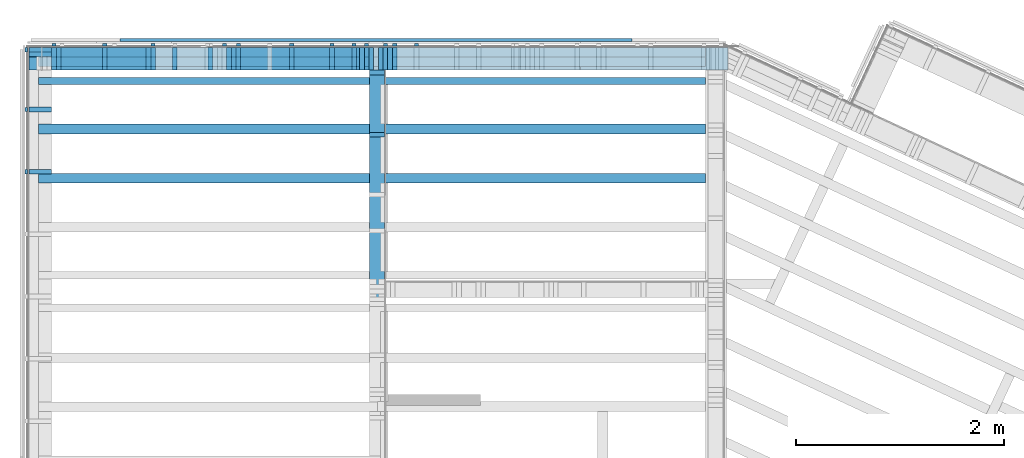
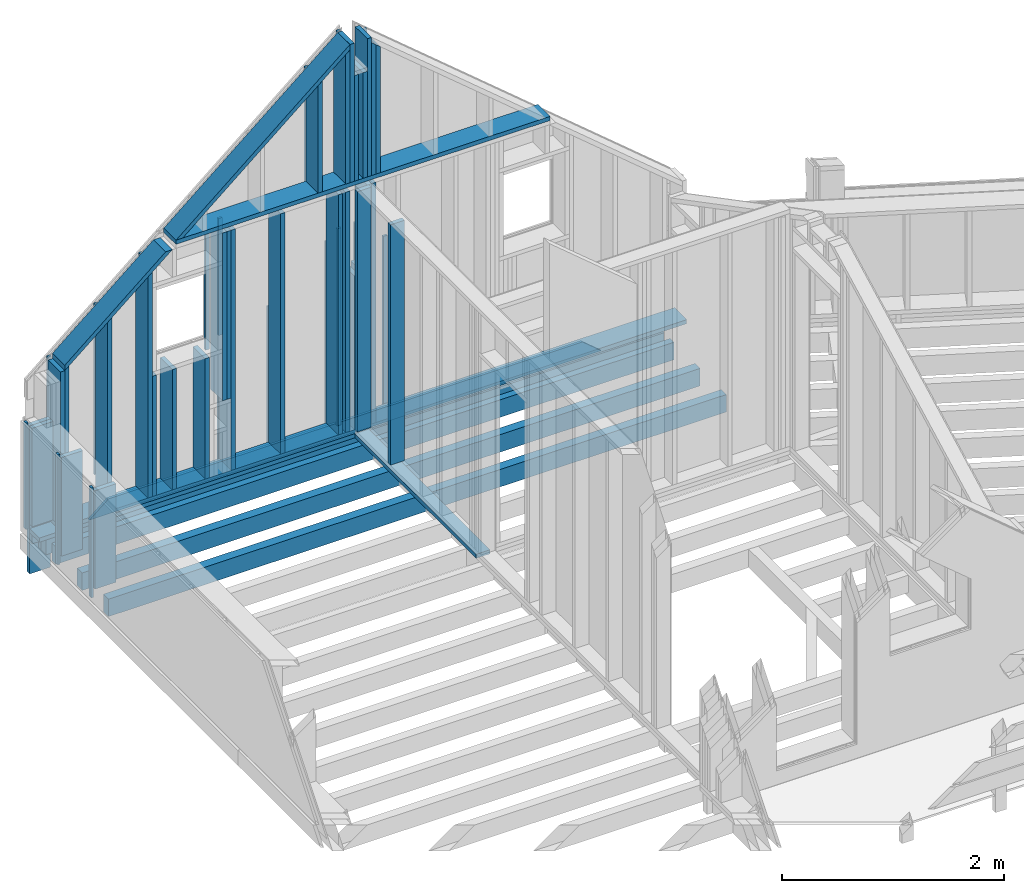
# One storey, part 11 of 24: 60 members.
"""IFC2X3 building model written with IfcOpenShell, lengths in metres."""

from ifc_helpers import new_model, si_unit, direction, frame, origin_with_axes, place, context, subcontext, project, spatial, faceted_brep, material, element, save


model = new_model("IFC2X3")

# Units and contexts
model_context = context("Model", 3, precision=1e-06, world=origin_with_axes(), true_north=direction((0.0, 1.0, 0.0)))
body_context = subcontext(model_context, "Body", "Model", "MODEL_VIEW")
ifc_project = project(units=[si_unit("LENGTHUNIT", "METRE"), si_unit("AREAUNIT", "SQUARE_METRE"), si_unit("VOLUMEUNIT", "CUBIC_METRE"), si_unit("PLANEANGLEUNIT", "RADIAN")], contexts=[model_context])

# Site, building, storey
site_placement = place(None, origin_with_axes())
site = spatial("IfcSite", under=ifc_project, at=site_placement, CompositionType="ELEMENT")
building_placement = place(site_placement, origin_with_axes())
building = spatial("IfcBuilding", under=site, at=building_placement, Name="Building 1", CompositionType="ELEMENT")
storey_placement = place(building_placement, origin_with_axes())
storey = spatial("IfcBuildingStorey", under=building, at=storey_placement, Name="Premier Etage", CompositionType="ELEMENT", Elevation=0.0)

# Members
ifc_material_1 = material(Name="Epicéa C24")
member_1_placement = place(storey_placement, frame((3.3635, 5.4902176, 2.8275), z_axis=(-1.0, 0.0, 0.0), x_axis=(0.0, 1.0, 0.0)))
element("IfcMember", 1, at=member_1_placement, inside=storey, material=ifc_material_1, Name="Lisse basse", context=body_context, shape_type="Brep", body=[
    faceted_brep([(0.0, 0.0225, -0.0725), (0.0, 0.0225, 0.0725), (2.1857824, 0.0225, 0.0725), (2.1857824, 0.0225, -0.0725), (0.0, -0.0225, 0.0725), (2.1857824, -0.0225, 0.0725), (0.0, -0.0225, -0.0725), (2.1857824, -0.0225, -0.0725)], [[[0, 1, 2, 3]], [[1, 4, 5, 2]], [[4, 6, 7, 5]], [[2, 5, 7, 3]], [[6, 0, 3, 7]], [[0, 6, 4, 1]]]),
])
member_2_placement = place(storey_placement, frame((1.984, 7.786, 5.5354713), z_axis=(0.0, 1.0, 0.0), x_axis=(0.0, 0.0, -1.0)))
element("IfcMember", 2, at=member_2_placement, inside=storey, material=ifc_material_1, Name="Montant", context=body_context, shape_type="Brep", body=[
    faceted_brep([(1.8448103, 0.0225, 0.11), (1.8448103, -0.0225, 0.11), (1.8448103, -0.0225, -0.11), (1.8448103, 0.0225, -0.11), (0.0, -0.0225, 0.11), (0.0, -0.0225, -0.11), (0.0, 0.0225, 0.11), (0.0, 0.0225, -0.11)], [[[0, 1, 2, 3]], [[2, 1, 4, 5]], [[1, 0, 6, 4]], [[3, 2, 5, 7]], [[0, 3, 7, 6]], [[4, 6, 7, 5]]]),
])
member_3_placement = place(storey_placement, frame((3.444, 7.921, 4.9754981), z_axis=(0.0, 1.0, 0.0), x_axis=(0.0, 0.0, -1.0)))
element("IfcMember", 3, at=member_3_placement, inside=storey, material=ifc_material_1, Name="latte 27/40", context=body_context, shape_type="Brep", body=[
    faceted_brep([(0.0, 0.02, -0.012), (0.0, -0.02, -0.012), (0.0, -0.02, 0.012), (0.0, 0.02, 0.012), (2.1654981, -0.02, -0.012), (2.1654981, -0.02, 0.012), (2.1654981, 0.02, -0.012), (2.1654981, 0.02, 0.012)], [[[0, 1, 2, 3]], [[2, 1, 4, 5]], [[1, 0, 6, 4]], [[6, 7, 5, 4]], [[3, 2, 5, 7]], [[0, 3, 7, 6]]]),
])
member_4_placement = place(storey_placement, frame((2.029, 7.786, 5.5354713), z_axis=(0.0, 1.0, 0.0), x_axis=(0.0, 0.0, -1.0)))
element("IfcMember", 4, at=member_4_placement, inside=storey, material=ifc_material_1, Name="Montant", context=body_context, shape_type="Brep", body=[
    faceted_brep([(2.6404713, -0.0225, 0.11), (2.6404713, 0.0225, 0.11), (0.0, 0.0225, 0.11), (0.0, -0.0225, 0.11), (2.6404713, -0.0225, -0.11), (2.6404713, 0.0225, -0.11), (0.0, -0.0225, -0.11), (0.0, 0.0225, -0.11)], [[[0, 1, 2, 3]], [[4, 5, 1, 0]], [[4, 0, 3, 6]], [[5, 4, 6, 7]], [[1, 5, 7, 2]], [[3, 2, 7, 6]]]),
])
member_5_placement = place(storey_placement, frame((0.122, 7.298, 3.9778151), z_axis=(-1.0, 0.0, 0.0), x_axis=(0.0, 0.0, -1.0)))
element("IfcMember", 5, at=member_5_placement, inside=storey, material=ifc_material_1, Name="Montant", context=body_context, shape_type="Brep", body=[
    faceted_brep([(1.0828151, -0.0225, -0.11), (1.0828151, 0.0225, -0.11), (1.0828151, 0.0225, 0.11), (1.0828151, -0.0225, 0.11), (0.0, -0.0225, 0.11), (0.0, -0.0225, -0.11), (0.0, 0.0225, -0.11), (0.0, 0.0225, 0.11)], [[[0, 1, 2, 3]], [[0, 3, 4, 5]], [[1, 0, 5, 6]], [[2, 1, 6, 7]], [[3, 2, 7, 4]], [[4, 7, 6, 5]]]),
])
member_6_placement = place(storey_placement, frame((5.3206163, 7.786, 5.6029713), z_axis=(0.0, -1.0, 0.0), x_axis=(-1.0, 0.0, 0.0)))
element("IfcMember", 6, at=member_6_placement, inside=storey, material=ifc_material_1, Name="Montant", context=body_context, shape_type="Brep", body=[
    faceted_brep([(0.0, 0.0225, 0.11), (0.0, 0.0225, -0.11), (0.0, -0.0225, -0.11), (0.0, -0.0225, 0.11), (3.8883953, 0.0225, -0.11), (3.8883953, -0.0225, -0.11), (3.8883953, 0.0225, 0.11), (3.8883953, -0.0225, 0.11)], [[[0, 1, 2, 3]], [[2, 1, 4, 5]], [[1, 0, 6, 4]], [[5, 4, 6, 7]], [[3, 2, 5, 7]], [[0, 3, 7, 6]]]),
])
member_7_placement = place(storey_placement, frame((3.264, 7.786, 7.1436366), z_axis=(0.0, 1.0, 0.0), x_axis=(0.0, 0.0, -1.0)))
element("IfcMember", 7, at=member_7_placement, inside=storey, material=ifc_material_1, Name="Montant", context=body_context, shape_type="Brep", body=[
    faceted_brep([(0.0, 0.0225, -0.11), (0.0, -0.0225, -0.11), (0.0, -0.0225, 0.11), (0.0, 0.0225, 0.11), (1.5181653, -0.0225, -0.11), (1.5181653, -0.0225, 0.11), (1.5181653, 0.0225, -0.11), (1.5181653, 0.0225, 0.11)], [[[0, 1, 2, 3]], [[2, 1, 4, 5]], [[1, 0, 6, 4]], [[0, 3, 7, 6]], [[3, 2, 5, 7]], [[4, 6, 7, 5]]]),
])
member_8_placement = place(storey_placement, frame((0.122, 7.8735, 3.9778151), z_axis=(-1.0, 0.0, 0.0), x_axis=(0.0, 0.0, -1.0)))
element("IfcMember", 8, at=member_8_placement, inside=storey, material=ifc_material_1, Name="Montant", context=body_context, shape_type="Brep", body=[
    faceted_brep([(1.6278151, 0.0225, 0.11), (0.0, 0.0225, 0.11), (0.0, -0.0225, 0.11), (1.6278151, -0.0225, 0.11), (0.0, 0.0225, -0.11), (0.0, -0.0225, -0.11), (1.6278151, 0.0225, -0.11), (1.6278151, -0.0225, -0.11)], [[[0, 1, 2, 3]], [[1, 4, 5, 2]], [[6, 4, 1, 0]], [[7, 5, 4, 6]], [[3, 2, 5, 7]], [[6, 0, 3, 7]]]),
])
member_9_placement = place(storey_placement, frame((0.2545, 7.921, 4.6204641), z_axis=(0.0, 1.0, 0.0), x_axis=(0.0, 0.0, -1.0)))
element("IfcMember", 9, at=member_9_placement, inside=storey, material=ifc_material_1, Name="latte 27/40", context=body_context, shape_type="Brep", body=[
    faceted_brep([(1.8104641, 0.02, -0.012), (1.8104641, 0.02, 0.012), (1.8104641, -0.02, 0.012), (1.8104641, -0.02, -0.012), (0.0, 0.02, 0.012), (0.0, 0.02, -0.012), (0.0, -0.02, -0.012), (0.0, -0.02, 0.012)], [[[0, 1, 2, 3]], [[4, 5, 6, 7]], [[3, 6, 5, 0]], [[2, 7, 6, 3]], [[1, 4, 7, 2]], [[0, 5, 4, 1]]]),
])
member_10_placement = place(storey_placement, frame((3.2188373, 7.786, 7.0847568), z_axis=(0.0, 1.0, 0.0), x_axis=(0.0, 0.0, -1.0)))
element("IfcMember", 10, at=member_10_placement, inside=storey, material=ifc_material_1, Name="Montant", context=body_context, shape_type="Brep", body=[
    faceted_brep([(0.0377595, 0.0225, -0.11), (0.0377595, 0.0225, 0.11), (1.4592855, 0.0225, 0.11), (1.4592855, 0.0225, -0.11), (0.0, -0.0225, 0.11), (1.4592855, -0.0225, 0.11), (0.0, -0.0225, -0.11), (1.4592855, -0.0225, -0.11)], [[[0, 1, 2, 3]], [[1, 4, 5, 2]], [[4, 6, 7, 5]], [[6, 0, 3, 7]], [[1, 0, 6, 4]], [[7, 3, 2, 5]]]),
])
ifc_material_2 = material(Name="NH II")
member_11_placement = place(storey_placement, frame((0.104, 7.1100544, 2.709), z_axis=(0.0, 0.0, -1.0), x_axis=(1.0, 0.0, 0.0)))
element("IfcMember", 11, at=member_11_placement, inside=storey, material=ifc_material_2, Name="Solive", context=body_context, shape_type="Brep", body=[
    faceted_brep([(6.424, -0.046, 0.096), (6.424, -0.046, -0.096), (6.424, 0.046, -0.096), (6.424, 0.046, 0.096), (0.0, -0.046, -0.096), (0.0, -0.046, 0.096), (0.0, 0.046, 0.096), (0.0, 0.046, -0.096)], [[[0, 1, 2, 3]], [[4, 5, 6, 7]], [[3, 6, 5, 0]], [[2, 7, 6, 3]], [[1, 4, 7, 2]], [[0, 5, 4, 1]]]),
])
member_12_placement = place(storey_placement, frame((1.759, 7.786, 4.218), z_axis=(0.0, 1.0, 0.0), x_axis=(0.0, 0.0, -1.0)))
element("IfcMember", 12, at=member_12_placement, inside=storey, material=ifc_material_1, Name="Montant", context=body_context, shape_type="Brep", body=[
    faceted_brep([(1.323, -0.0225, -0.11), (1.323, 0.0225, -0.11), (1.323, 0.0225, 0.11), (1.323, -0.0225, 0.11), (0.0, 0.0225, -0.11), (0.0, 0.0225, 0.11), (0.0, -0.0225, -0.11), (0.0, -0.0225, 0.11)], [[[0, 1, 2, 3]], [[2, 1, 4, 5]], [[1, 0, 6, 4]], [[0, 3, 7, 6]], [[3, 2, 5, 7]], [[7, 5, 4, 6]]]),
])
member_13_placement = place(storey_placement, frame((-0.013, 7.8735, 4.0178151), z_axis=(-1.0, 0.0, 0.0), x_axis=(0.0, 0.0, -1.0)))
element("IfcMember", 13, at=member_13_placement, inside=storey, material=ifc_material_1, Name="latte 27/40", context=body_context, shape_type="Brep", body=[
    faceted_brep([(1.1678151, -0.02, -0.012), (1.1678151, -0.02, 0.012), (0.0, -0.02, 0.012), (0.0, -0.02, -0.012), (1.1678151, 0.02, -0.012), (0.0, 0.02, -0.012), (1.1678151, 0.02, 0.012), (0.0, 0.02, 0.012)], [[[0, 1, 2, 3]], [[4, 0, 3, 5]], [[6, 4, 5, 7]], [[2, 7, 5, 3]], [[1, 6, 7, 2]], [[4, 6, 1, 0]]]),
])
member_14_placement = place(storey_placement, frame((1.894, 7.921, 5.5204713), z_axis=(0.0, 1.0, 0.0), x_axis=(0.0, 0.0, -1.0)))
element("IfcMember", 14, at=member_14_placement, inside=storey, material=ifc_material_1, Name="latte 27/40", context=body_context, shape_type="Brep", body=[
    faceted_brep([(1.3998943, -0.02, -0.012), (1.3998943, 0.02, -0.012), (1.3998943, 0.02, 0.012), (1.3998943, -0.02, 0.012), (0.0, 0.02, -0.012), (0.0, 0.02, 0.012), (0.0, -0.02, -0.012), (0.0, -0.02, 0.012)], [[[0, 1, 2, 3]], [[2, 1, 4, 5]], [[1, 0, 6, 4]], [[5, 4, 6, 7]], [[0, 3, 7, 6]], [[3, 2, 5, 7]]]),
])
member_15_placement = place(storey_placement, frame((2.029, 7.921, 5.5204713), z_axis=(0.0, 1.0, 0.0), x_axis=(0.0, 0.0, -1.0)))
element("IfcMember", 15, at=member_15_placement, inside=storey, material=ifc_material_1, Name="latte 27/40", context=body_context, shape_type="Brep", body=[
    faceted_brep([(1.2866159, -0.02, -0.012), (1.2866159, 0.02, -0.012), (1.2866159, 0.02, 0.012), (1.2866159, -0.02, 0.012), (0.0, 0.02, -0.012), (0.0, 0.02, 0.012), (0.0, -0.02, -0.012), (0.0, -0.02, 0.012)], [[[0, 1, 2, 3]], [[2, 1, 4, 5]], [[1, 0, 6, 4]], [[5, 4, 6, 7]], [[0, 3, 7, 6]], [[3, 2, 5, 7]]]),
])
member_16_placement = place(storey_placement, frame((0.6940204, 7.9675, 2.7225), z_axis=(0.0, 0.0, -1.0), x_axis=(1.0, 0.0, 0.0)))
element("IfcMember", 16, at=member_16_placement, inside=storey, material=ifc_material_2, Name="contre poutre", context=body_context, shape_type="Brep", body=[
    faceted_brep([(0.0, 0.0135, 0.0825), (0.1966393, 0.0135, -0.0825), (0.1966393, -0.0135, -0.0825), (0.0, -0.0135, 0.0825), (5.1233199, 0.0135, -0.0825), (5.1233199, -0.0135, -0.0825), (5.3199592, 0.0135, 0.0825), (5.3199592, -0.0135, 0.0825)], [[[0, 1, 2, 3]], [[2, 1, 4, 5]], [[1, 0, 6, 4]], [[5, 4, 6, 7]], [[3, 2, 5, 7]], [[0, 3, 7, 6]]]),
])
member_17_placement = place(storey_placement, frame((6.7411423, 7.786, 2.8725), z_axis=(0.0, -1.0, 0.0), x_axis=(-1.0, 0.0, 0.0)))
element("IfcMember", 17, at=member_17_placement, inside=storey, material=ifc_material_1, Name="Montant", context=body_context, shape_type="Brep", body=[
    faceted_brep([(0.0, 0.0225, -0.11), (0.0, -0.0225, -0.11), (0.0, -0.0225, 0.11), (0.0, 0.0225, 0.11), (6.5091423, -0.0225, -0.11), (6.5091423, -0.0225, 0.11), (6.5091423, 0.0225, -0.11), (6.5091423, 0.0225, 0.11)], [[[0, 1, 2, 3]], [[2, 1, 4, 5]], [[1, 0, 6, 4]], [[5, 4, 6, 7]], [[0, 3, 7, 6]], [[3, 2, 5, 7]]]),
])
member_18_placement = place(storey_placement, frame((0.122, 7.8285, 3.9778151), z_axis=(-1.0, 0.0, 0.0), x_axis=(0.0, 0.0, -1.0)))
element("IfcMember", 18, at=member_18_placement, inside=storey, material=ifc_material_1, Name="Montant", context=body_context, shape_type="Brep", body=[
    faceted_brep([(1.0828151, -0.0225, -0.11), (1.0828151, 0.0225, -0.11), (1.0828151, 0.0225, 0.11), (1.0828151, -0.0225, 0.11), (0.0, -0.0225, 0.11), (0.0, -0.0225, -0.11), (0.0, 0.0225, -0.11), (0.0, 0.0225, 0.11)], [[[0, 1, 2, 3]], [[0, 3, 4, 5]], [[1, 0, 5, 6]], [[2, 1, 6, 7]], [[3, 2, 7, 4]], [[4, 7, 6, 5]]]),
])
member_19_placement = place(storey_placement, frame((3.1431423, 7.921, 4.8740864), z_axis=(0.0, 1.0, 0.0), x_axis=(0.0, 0.0, -1.0)))
element("IfcMember", 19, at=member_19_placement, inside=storey, material=ifc_material_1, Name="latte 27/40", context=body_context, shape_type="Brep", body=[
    faceted_brep([(0.0, 0.02, -0.012), (0.0, -0.02, -0.012), (0.0, -0.02, 0.012), (0.0, 0.02, 0.012), (2.0640864, -0.02, -0.012), (2.0640864, -0.02, 0.012), (2.0640864, 0.02, -0.012), (2.0640864, 0.02, 0.012)], [[[0, 1, 2, 3]], [[2, 1, 4, 5]], [[1, 0, 6, 4]], [[6, 7, 5, 4]], [[3, 2, 5, 7]], [[0, 3, 7, 6]]]),
])
member_20_placement = place(storey_placement, frame((3.3635, 7.6535, 5.5354713), z_axis=(1.0, 0.0, 0.0), x_axis=(0.0, 0.0, -1.0)))
element("IfcMember", 20, at=member_20_placement, inside=storey, material=ifc_material_1, Name="Montant", context=body_context, shape_type="Brep", body=[
    faceted_brep([(2.6404713, -0.0225, -0.0725), (2.6404713, 0.0225, -0.0725), (2.6404713, 0.0225, 0.0725), (2.6404713, -0.0225, 0.0725), (0.0, -0.0225, 0.0725), (0.0, -0.0225, -0.0725), (0.0, 0.0225, -0.0725), (0.0, 0.0225, 0.0725)], [[[0, 1, 2, 3]], [[0, 3, 4, 5]], [[1, 0, 5, 6]], [[2, 1, 6, 7]], [[3, 2, 7, 4]], [[4, 7, 6, 5]]]),
])
member_21_placement = place(storey_placement, frame((-0.013, 7.298, 4.0178151), z_axis=(-1.0, 0.0, 0.0), x_axis=(0.0, 0.0, -1.0)))
element("IfcMember", 21, at=member_21_placement, inside=storey, material=ifc_material_1, Name="latte 27/40", context=body_context, shape_type="Brep", body=[
    faceted_brep([(1.2078151, -0.02, 0.012), (0.0, -0.02, 0.012), (0.0, -0.02, -0.012), (1.2078151, -0.02, -0.012), (1.2078151, 0.02, -0.012), (0.0, 0.02, -0.012), (0.0, 0.02, 0.012), (1.2078151, 0.02, 0.012)], [[[0, 1, 2, 3]], [[4, 3, 2, 5]], [[6, 7, 4, 5]], [[0, 7, 6, 1]], [[7, 0, 3, 4]], [[1, 6, 5, 2]]]),
])
member_22_placement = place(storey_placement, frame((3.264, 7.921, 4.9754981), z_axis=(0.0, 1.0, 0.0), x_axis=(0.0, 0.0, -1.0)))
element("IfcMember", 22, at=member_22_placement, inside=storey, material=ifc_material_1, Name="latte 27/40", context=body_context, shape_type="Brep", body=[
    faceted_brep([(0.0, 0.02, -0.012), (0.0, -0.02, -0.012), (0.0, -0.02, 0.012), (0.0, 0.02, 0.012), (2.1654981, -0.02, -0.012), (2.1654981, -0.02, 0.012), (2.1654981, 0.02, -0.012), (2.1654981, 0.02, 0.012)], [[[0, 1, 2, 3]], [[2, 1, 4, 5]], [[1, 0, 6, 4]], [[6, 7, 5, 4]], [[3, 2, 5, 7]], [[0, 3, 7, 6]]]),
])
member_23_placement = place(storey_placement, frame((3.309, 7.786, 4.5857465), z_axis=(0.0, 1.0, 0.0), x_axis=(0.0, 0.0, -1.0)))
element("IfcMember", 23, at=member_23_placement, inside=storey, material=ifc_material_1, Name="Montant", context=body_context, shape_type="Brep", body=[
    faceted_brep([(1.6907465, -0.0225, -0.11), (1.6907465, 0.0225, -0.11), (1.6907465, 0.0225, 0.11), (1.6907465, -0.0225, 0.11), (0.0, -0.0225, 0.11), (0.0, -0.0225, -0.11), (0.0, 0.0225, -0.11), (0.0, 0.0225, 0.11)], [[[0, 1, 2, 3]], [[0, 3, 4, 5]], [[1, 0, 5, 6]], [[2, 1, 6, 7]], [[3, 2, 7, 4]], [[4, 7, 6, 5]]]),
])
member_24_placement = place(storey_placement, frame((0.7431423, 7.921, 5.0304837), z_axis=(0.0, 1.0, 0.0), x_axis=(0.0, 0.0, -1.0)))
element("IfcMember", 24, at=member_24_placement, inside=storey, material=ifc_material_1, Name="latte 27/40", context=body_context, shape_type="Brep", body=[
    faceted_brep([(1.8755909, -0.02, -0.012), (1.8755909, 0.02, -0.012), (1.8755909, 0.02, 0.012), (1.8755909, -0.02, 0.012), (0.0, 0.02, -0.012), (0.0, 0.02, 0.012), (0.0, -0.02, -0.012), (0.0, -0.02, 0.012)], [[[0, 1, 2, 3]], [[2, 1, 4, 5]], [[1, 0, 6, 4]], [[5, 4, 6, 7]], [[0, 3, 7, 6]], [[3, 2, 5, 7]]]),
])
member_25_placement = place(storey_placement, frame((3.444, 7.786, 7.1435002), z_axis=(0.0, 1.0, 0.0), x_axis=(0.0, 0.0, -1.0)))
element("IfcMember", 25, at=member_25_placement, inside=storey, material=ifc_material_1, Name="Montant", context=body_context, shape_type="Brep", body=[
    faceted_brep([(0.0, 0.0225, -0.11), (0.0, -0.0225, -0.11), (0.0, -0.0225, 0.11), (0.0, 0.0225, 0.11), (1.5180289, -0.0225, -0.11), (1.5180289, -0.0225, 0.11), (1.5180289, 0.0225, -0.11), (1.5180289, 0.0225, 0.11)], [[[0, 1, 2, 3]], [[2, 1, 4, 5]], [[1, 0, 6, 4]], [[0, 3, 7, 6]], [[3, 2, 5, 7]], [[4, 6, 7, 5]]]),
])
member_26_placement = place(storey_placement, frame((1.164, 7.786, 5.3605436), z_axis=(0.0, 1.0, 0.0), x_axis=(0.0, 0.0, -1.0)))
element("IfcMember", 26, at=member_26_placement, inside=storey, material=ifc_material_1, Name="Montant", context=body_context, shape_type="Brep", body=[
    faceted_brep([(0.0377595, 0.0225, 0.11), (0.0, -0.0225, 0.11), (2.4655436, -0.0225, 0.11), (2.4655436, 0.0225, 0.11), (0.0, -0.0225, -0.11), (2.4655436, -0.0225, -0.11), (0.0377595, 0.0225, -0.11), (2.4655436, 0.0225, -0.11)], [[[0, 1, 2, 3]], [[1, 4, 5, 2]], [[4, 6, 7, 5]], [[6, 0, 3, 7]], [[0, 6, 4, 1]], [[5, 7, 3, 2]]]),
])
member_27_placement = place(storey_placement, frame((1.209, 7.786, 4.218), z_axis=(0.0, 1.0, 0.0), x_axis=(0.0, 0.0, -1.0)))
element("IfcMember", 27, at=member_27_placement, inside=storey, material=ifc_material_1, Name="Montant", context=body_context, shape_type="Brep", body=[
    faceted_brep([(1.323, -0.0225, -0.11), (1.323, 0.0225, -0.11), (1.323, 0.0225, 0.11), (1.323, -0.0225, 0.11), (0.0, 0.0225, -0.11), (0.0, 0.0225, 0.11), (0.0, -0.0225, -0.11), (0.0, -0.0225, 0.11)], [[[0, 1, 2, 3]], [[2, 1, 4, 5]], [[1, 0, 6, 4]], [[0, 3, 7, 6]], [[3, 2, 5, 7]], [[7, 5, 4, 6]]]),
])
member_28_placement = place(storey_placement, frame((2.029, 7.921, 3.93921), z_axis=(0.0, 1.0, 0.0), x_axis=(0.0, 0.0, -1.0)))
element("IfcMember", 28, at=member_28_placement, inside=storey, material=ifc_material_1, Name="latte 27/40", context=body_context, shape_type="Brep", body=[
    faceted_brep([(0.0, 0.02, -0.012), (0.0, -0.02, -0.012), (0.0, -0.02, 0.012), (0.0, 0.02, 0.012), (1.12921, -0.02, -0.012), (1.12921, -0.02, 0.012), (1.12921, 0.02, -0.012), (1.12921, 0.02, 0.012)], [[[0, 1, 2, 3]], [[2, 1, 4, 5]], [[1, 0, 6, 4]], [[6, 7, 5, 4]], [[3, 2, 5, 7]], [[0, 3, 7, 6]]]),
])
member_29_placement = place(storey_placement, frame((3.489, 7.786, 5.5354713), z_axis=(0.0, 1.0, 0.0), x_axis=(0.0, 0.0, -1.0)))
element("IfcMember", 29, at=member_29_placement, inside=storey, material=ifc_material_1, Name="Montant", context=body_context, shape_type="Brep", body=[
    faceted_brep([(2.6404713, -0.0225, 0.11), (2.6404713, 0.0225, 0.11), (0.0, 0.0225, 0.11), (0.0, -0.0225, 0.11), (2.6404713, -0.0225, -0.11), (2.6404713, 0.0225, -0.11), (0.0, -0.0225, -0.11), (0.0, 0.0225, -0.11)], [[[0, 1, 2, 3]], [[4, 5, 1, 0]], [[4, 0, 3, 6]], [[5, 4, 6, 7]], [[1, 5, 7, 2]], [[3, 2, 7, 6]]]),
])
member_30_placement = place(storey_placement, frame((0.104, 6.6371088, 2.709), z_axis=(0.0, 0.0, -1.0), x_axis=(1.0, 0.0, 0.0)))
element("IfcMember", 30, at=member_30_placement, inside=storey, material=ifc_material_2, Name="Solive", context=body_context, shape_type="Brep", body=[
    faceted_brep([(6.424, -0.046, 0.096), (6.424, -0.046, -0.096), (6.424, 0.046, -0.096), (6.424, 0.046, 0.096), (0.0, -0.046, -0.096), (0.0, -0.046, 0.096), (0.0, 0.046, 0.096), (0.0, 0.046, -0.096)], [[[0, 1, 2, 3]], [[4, 5, 6, 7]], [[3, 6, 5, 0]], [[2, 7, 6, 3]], [[1, 4, 7, 2]], [[0, 5, 4, 1]]]),
])
member_31_placement = place(storey_placement, frame((0.2995, 7.786, 4.635142), z_axis=(0.0, 1.0, 0.0), x_axis=(0.0, 0.0, -1.0)))
element("IfcMember", 31, at=member_31_placement, inside=storey, material=ifc_material_1, Name="Montant", context=body_context, shape_type="Brep", body=[
    faceted_brep([(0.0377595, 0.0225, -0.11), (0.0, -0.0225, -0.11), (0.0, -0.0225, 0.11), (0.0377595, 0.0225, 0.11), (1.740142, -0.0225, -0.11), (1.740142, -0.0225, 0.11), (1.740142, 0.0225, -0.11), (1.740142, 0.0225, 0.11)], [[[0, 1, 2, 3]], [[2, 1, 4, 5]], [[1, 0, 6, 4]], [[0, 3, 7, 6]], [[3, 2, 5, 7]], [[4, 6, 7, 5]]]),
])
member_32_placement = place(storey_placement, frame((0.2545, 7.786, 4.5973825), z_axis=(0.0, 1.0, 0.0), x_axis=(0.0, 0.0, -1.0)))
element("IfcMember", 32, at=member_32_placement, inside=storey, material=ifc_material_1, Name="Montant", context=body_context, shape_type="Brep", body=[
    faceted_brep([(0.0, 0.0225, -0.11), (0.0, -0.0225, -0.11), (0.0, -0.0225, 0.11), (0.0, 0.0225, 0.11), (1.7023825, -0.0225, -0.11), (1.7023825, -0.0225, 0.11), (1.7023825, 0.0225, -0.11), (1.7023825, 0.0225, 0.11)], [[[0, 1, 2, 3]], [[2, 1, 4, 5]], [[1, 0, 6, 4]], [[0, 3, 7, 6]], [[3, 2, 5, 7]], [[4, 6, 7, 5]]]),
])
member_33_placement = place(storey_placement, frame((2.9312452, 7.786, 6.8434384), z_axis=(0.0, 1.0, 0.0), x_axis=(0.0, 0.0, -1.0)))
element("IfcMember", 33, at=member_33_placement, inside=storey, material=ifc_material_1, Name="Montant", context=body_context, shape_type="Brep", body=[
    faceted_brep([(0.0, -0.0225, 0.11), (0.0, -0.0225, -0.11), (1.2179671, -0.0225, -0.11), (1.2179671, -0.0225, 0.11), (1.2179671, 0.0225, 0.11), (0.0377595, 0.0225, 0.11), (0.0377595, 0.0225, -0.11), (1.2179671, 0.0225, -0.11)], [[[0, 1, 2, 3]], [[3, 4, 5, 0]], [[6, 5, 4, 7]], [[1, 6, 7, 2]], [[1, 0, 5, 6]], [[2, 7, 4, 3]]]),
])
member_34_placement = place(storey_placement, frame((6.528, 7.758, 2.709), z_axis=(0.0, 0.0, -1.0), x_axis=(-1.0, 0.0, 0.0)))
element("IfcMember", 34, at=member_34_placement, inside=storey, material=ifc_material_2, Name="Ceinture", context=body_context, shape_type="Brep", body=[
    faceted_brep([(6.424, -0.046, 0.096), (6.424, -0.046, -0.096), (6.424, 0.046, -0.096), (6.424, 0.046, 0.096), (0.0, -0.046, -0.096), (0.0, -0.046, 0.096), (0.0, 0.046, 0.096), (0.0, 0.046, -0.096)], [[[0, 1, 2, 3]], [[4, 5, 6, 7]], [[3, 6, 5, 0]], [[2, 7, 6, 3]], [[1, 4, 7, 2]], [[0, 5, 4, 1]]]),
])
member_35_placement = place(storey_placement, frame((1.209, 7.921, 5.4213847), z_axis=(0.0, 1.0, 0.0), x_axis=(0.0, 0.0, -1.0)))
element("IfcMember", 35, at=member_35_placement, inside=storey, material=ifc_material_1, Name="latte 27/40", context=body_context, shape_type="Brep", body=[
    faceted_brep([(1.8755909, -0.02, -0.012), (1.8755909, 0.02, -0.012), (1.8755909, 0.02, 0.012), (1.8755909, -0.02, 0.012), (0.0, 0.02, -0.012), (0.0, 0.02, 0.012), (0.0, -0.02, -0.012), (0.0, -0.02, 0.012)], [[[0, 1, 2, 3]], [[2, 1, 4, 5]], [[1, 0, 6, 4]], [[5, 4, 6, 7]], [[0, 3, 7, 6]], [[3, 2, 5, 7]]]),
])
member_36_placement = place(storey_placement, frame((-0.013, 6.698, 4.0178151), z_axis=(-1.0, 0.0, 0.0), x_axis=(0.0, 0.0, -1.0)))
element("IfcMember", 36, at=member_36_placement, inside=storey, material=ifc_material_1, Name="latte 27/40", context=body_context, shape_type="Brep", body=[
    faceted_brep([(1.2078151, -0.02, 0.012), (0.0, -0.02, 0.012), (0.0, -0.02, -0.012), (1.2078151, -0.02, -0.012), (1.2078151, 0.02, -0.012), (0.0, 0.02, -0.012), (0.0, 0.02, 0.012), (1.2078151, 0.02, 0.012)], [[[0, 1, 2, 3]], [[4, 3, 2, 5]], [[6, 7, 4, 5]], [[0, 7, 6, 1]], [[7, 0, 3, 4]], [[1, 6, 5, 2]]]),
])
member_37_placement = place(storey_placement, frame((3.534, 7.786, 7.0469973), z_axis=(0.0, 1.0, 0.0), x_axis=(0.0, 0.0, -1.0)))
element("IfcMember", 37, at=member_37_placement, inside=storey, material=ifc_material_1, Name="Montant", context=body_context, shape_type="Brep", body=[
    faceted_brep([(0.0377595, -0.0225, -0.11), (0.0377595, -0.0225, 0.11), (0.0, 0.0225, 0.11), (0.0, 0.0225, -0.11), (1.421526, -0.0225, 0.11), (1.421526, 0.0225, 0.11), (1.421526, -0.0225, -0.11), (1.421526, 0.0225, -0.11)], [[[0, 1, 2, 3]], [[2, 1, 4, 5]], [[1, 0, 6, 4]], [[3, 2, 5, 7]], [[0, 3, 7, 6]], [[6, 7, 5, 4]]]),
])
member_38_placement = place(storey_placement, frame((2.9312452, 7.921, 6.86652), z_axis=(0.0, 1.0, 0.0), x_axis=(0.0, 0.0, -1.0)))
element("IfcMember", 38, at=member_38_placement, inside=storey, material=ifc_material_1, Name="latte 27/40", context=body_context, shape_type="Brep", body=[
    faceted_brep([(1.2810487, 0.02, -0.012), (1.2810487, 0.02, 0.012), (1.2810487, -0.02, 0.012), (1.2810487, -0.02, -0.012), (0.0, 0.02, 0.012), (0.0, 0.02, -0.012), (0.0, -0.02, -0.012), (0.0, -0.02, 0.012)], [[[0, 1, 2, 3]], [[4, 5, 6, 7]], [[3, 6, 5, 0]], [[2, 7, 6, 3]], [[1, 4, 7, 2]], [[0, 5, 4, 1]]]),
])
member_39_placement = place(storey_placement, frame((3.534, 7.921, 7.0700789), z_axis=(0.0, 1.0, 0.0), x_axis=(0.0, 0.0, -1.0)))
element("IfcMember", 39, at=member_39_placement, inside=storey, material=ifc_material_1, Name="latte 27/40", context=body_context, shape_type="Brep", body=[
    faceted_brep([(1.4846076, 0.02, -0.012), (1.4846076, 0.02, 0.012), (1.4846076, -0.02, 0.012), (1.4846076, -0.02, -0.012), (0.0, 0.02, 0.012), (0.0, 0.02, -0.012), (0.0, -0.02, -0.012), (0.0, -0.02, 0.012)], [[[0, 1, 2, 3]], [[4, 5, 6, 7]], [[3, 6, 5, 0]], [[2, 7, 6, 3]], [[1, 4, 7, 2]], [[0, 5, 4, 1]]]),
])
member_40_placement = place(storey_placement, frame((1.4466837, 7.786, 5.6082353), z_axis=(0.0, -1.0, 0.0), x_axis=(0.7660444, 0.0, 0.6427876)))
element("IfcMember", 40, at=member_40_placement, inside=storey, material=ifc_material_1, Name="Montant", context=body_context, shape_type="Brep", body=[
    faceted_brep([(2.3240865, -0.0225, 0.11), (2.361846, 0.0225, 0.11), (0.0, 0.0225, 0.11), (0.0536289, -0.0225, 0.11), (2.3240865, -0.0225, -0.11), (0.0536289, -0.0225, -0.11), (2.361846, 0.0225, -0.11), (0.0, 0.0225, -0.11)], [[[0, 1, 2, 3]], [[4, 0, 3, 5]], [[6, 4, 5, 7]], [[2, 7, 5, 3]], [[1, 6, 7, 2]], [[0, 4, 6, 1]]]),
])
member_41_placement = place(storey_placement, frame((3.3635, 7.0535, 5.5354713), z_axis=(1.0, 0.0, 0.0), x_axis=(0.0, 0.0, -1.0)))
element("IfcMember", 41, at=member_41_placement, inside=storey, material=ifc_material_1, Name="Montant", context=body_context, shape_type="Brep", body=[
    faceted_brep([(2.6404713, -0.0225, -0.0725), (2.6404713, 0.0225, -0.0725), (2.6404713, 0.0225, 0.0725), (2.6404713, -0.0225, 0.0725), (0.0, -0.0225, 0.0725), (0.0, -0.0225, -0.0725), (0.0, 0.0225, -0.0725), (0.0, 0.0225, 0.0725)], [[[0, 1, 2, 3]], [[0, 3, 4, 5]], [[1, 0, 5, 6]], [[2, 1, 6, 7]], [[3, 2, 7, 4]], [[4, 7, 6, 5]]]),
])
member_42_placement = place(storey_placement, frame((1.4174707, 7.786, 4.218), z_axis=(0.0, 1.0, 0.0), x_axis=(0.0, 0.0, -1.0)))
element("IfcMember", 42, at=member_42_placement, inside=storey, material=ifc_material_1, Name="Montant", context=body_context, shape_type="Brep", body=[
    faceted_brep([(1.323, -0.0225, -0.11), (1.323, 0.0225, -0.11), (1.323, 0.0225, 0.11), (1.323, -0.0225, 0.11), (0.0, 0.0225, -0.11), (0.0, 0.0225, 0.11), (0.0, -0.0225, -0.11), (0.0, -0.0225, 0.11)], [[[0, 1, 2, 3]], [[2, 1, 4, 5]], [[1, 0, 6, 4]], [[0, 3, 7, 6]], [[3, 2, 5, 7]], [[7, 5, 4, 6]]]),
])
member_43_placement = place(storey_placement, frame((0.122, 6.698, 3.9778151), z_axis=(-1.0, 0.0, 0.0), x_axis=(0.0, 0.0, -1.0)))
element("IfcMember", 43, at=member_43_placement, inside=storey, material=ifc_material_1, Name="Montant", context=body_context, shape_type="Brep", body=[
    faceted_brep([(1.0828151, -0.0225, -0.11), (1.0828151, 0.0225, -0.11), (1.0828151, 0.0225, 0.11), (1.0828151, -0.0225, 0.11), (0.0, -0.0225, 0.11), (0.0, -0.0225, -0.11), (0.0, 0.0225, -0.11), (0.0, 0.0225, 0.11)], [[[0, 1, 2, 3]], [[0, 3, 4, 5]], [[1, 0, 5, 6]], [[2, 1, 6, 7]], [[3, 2, 7, 4]], [[4, 7, 6, 5]]]),
])
member_44_placement = place(storey_placement, frame((3.309, 7.786, 6.7854713), z_axis=(0.0, 1.0, 0.0), x_axis=(0.0, 0.0, -1.0)))
element("IfcMember", 44, at=member_44_placement, inside=storey, material=ifc_material_1, Name="Montant", context=body_context, shape_type="Brep", body=[
    faceted_brep([(0.0, -0.0225, -0.11), (0.0, -0.0225, 0.11), (0.0, 0.0225, 0.11), (0.0, 0.0225, -0.11), (1.16, -0.0225, 0.11), (1.16, 0.0225, 0.11), (1.16, -0.0225, -0.11), (1.16, 0.0225, -0.11)], [[[0, 1, 2, 3]], [[2, 1, 4, 5]], [[1, 0, 6, 4]], [[3, 2, 5, 7]], [[0, 3, 7, 6]], [[6, 7, 5, 4]]]),
])
member_45_placement = place(storey_placement, frame((3.7431423, 7.921, 4.7244878), z_axis=(0.0, 1.0, 0.0), x_axis=(0.0, 0.0, -1.0)))
element("IfcMember", 45, at=member_45_placement, inside=storey, material=ifc_material_1, Name="latte 27/40", context=body_context, shape_type="Brep", body=[
    faceted_brep([(0.0, 0.02, -0.012), (0.0, -0.02, -0.012), (0.0, -0.02, 0.012), (0.0, 0.02, 0.012), (1.9144878, -0.02, -0.012), (1.9144878, -0.02, 0.012), (1.9144878, 0.02, -0.012), (1.9144878, 0.02, 0.012)], [[[0, 1, 2, 3]], [[2, 1, 4, 5]], [[1, 0, 6, 4]], [[6, 7, 5, 4]], [[3, 2, 5, 7]], [[0, 3, 7, 6]]]),
])
member_46_placement = place(storey_placement, frame((3.436, 7.786, 2.8275), z_axis=(0.0, -1.0, 0.0), x_axis=(-1.0, 0.0, 0.0)))
element("IfcMember", 46, at=member_46_placement, inside=storey, material=ifc_material_1, Name="Lisse basse", context=body_context, shape_type="Brep", body=[
    faceted_brep([(0.0, -0.0225, -0.11), (0.0, 0.0225, -0.11), (3.424, 0.0225, -0.11), (3.424, -0.0225, -0.11), (0.0, 0.0225, 0.11), (3.424, 0.0225, 0.11), (0.0, -0.0225, 0.11), (3.424, -0.0225, 0.11)], [[[0, 1, 2, 3]], [[1, 4, 5, 2]], [[4, 6, 7, 5]], [[5, 7, 3, 2]], [[6, 0, 3, 7]], [[0, 6, 4, 1]]]),
])
member_47_placement = place(storey_placement, frame((6.528, 7.85, 2.709), z_axis=(0.0, 0.0, -1.0), x_axis=(-1.0, 0.0, 0.0)))
element("IfcMember", 47, at=member_47_placement, inside=storey, material=ifc_material_2, Name="Ceinture", context=body_context, shape_type="Brep", body=[
    faceted_brep([(6.424, -0.046, 0.096), (6.424, -0.046, 0.0), (6.424, 0.046, 0.0), (6.424, 0.046, 0.096), (6.516, -0.046, 0.0), (6.516, 0.046, 0.0), (0.0, 0.046, 0.096), (0.0, -0.046, 0.096), (0.0, -0.046, -0.096), (6.516, -0.046, -0.096), (6.516, 0.046, -0.096), (0.0, 0.046, -0.096)], [[[0, 1, 2, 3]], [[2, 1, 4, 5]], [[0, 3, 6, 7]], [[8, 9, 4, 1, 0, 7]], [[5, 4, 9, 10]], [[8, 7, 6, 11]], [[2, 5, 10, 11, 6, 3]], [[9, 8, 11, 10]]]),
])
member_48_placement = place(storey_placement, frame((0.104, 7.572, 2.709), z_axis=(0.0, 0.0, -1.0), x_axis=(1.0, 0.0, 0.0)))
element("IfcMember", 48, at=member_48_placement, inside=storey, material=ifc_material_2, Name="Solive", context=body_context, shape_type="Brep", body=[
    faceted_brep([(6.424, -0.035, 0.096), (6.424, -0.035, -0.096), (6.424, 0.035, -0.096), (6.424, 0.035, 0.096), (0.0, -0.035, -0.096), (0.0, 0.035, -0.096), (0.0, -0.035, 0.096), (0.0, 0.035, 0.096)], [[[0, 1, 2, 3]], [[2, 1, 4, 5]], [[1, 0, 6, 4]], [[0, 3, 7, 6]], [[4, 6, 7, 5]], [[3, 2, 5, 7]]]),
])
member_49_placement = place(storey_placement, frame((0.7431423, 7.786, 5.0074021), z_axis=(0.0, 1.0, 0.0), x_axis=(0.0, 0.0, -1.0)))
element("IfcMember", 49, at=member_49_placement, inside=storey, material=ifc_material_1, Name="Montant", context=body_context, shape_type="Brep", body=[
    faceted_brep([(2.1124021, -0.0225, 0.11), (2.1124021, 0.0225, 0.11), (0.0377595, 0.0225, 0.11), (0.0, -0.0225, 0.11), (0.0, -0.0225, -0.11), (0.0377595, 0.0225, -0.11), (2.1124021, -0.0225, -0.11), (2.1124021, 0.0225, -0.11)], [[[0, 1, 2, 3]], [[4, 3, 2, 5]], [[3, 4, 6, 0]], [[6, 7, 1, 0]], [[4, 5, 7, 6]], [[5, 2, 1, 7]]]),
])
member_50_placement = place(storey_placement, frame((1.939, 7.786, 5.5354713), z_axis=(0.0, 1.0, 0.0), x_axis=(0.0, 0.0, -1.0)))
element("IfcMember", 50, at=member_50_placement, inside=storey, material=ifc_material_1, Name="Montant", context=body_context, shape_type="Brep", body=[
    faceted_brep([(1.8448103, 0.0225, 0.11), (1.8448103, -0.0225, 0.11), (1.8448103, -0.0225, -0.11), (1.8448103, 0.0225, -0.11), (0.0, -0.0225, 0.11), (0.0, -0.0225, -0.11), (0.0, 0.0225, 0.11), (0.0, 0.0225, -0.11)], [[[0, 1, 2, 3]], [[2, 1, 4, 5]], [[1, 0, 6, 4]], [[3, 2, 5, 7]], [[0, 3, 7, 6]], [[4, 6, 7, 5]]]),
])
for number, where, z_axis, x_axis, name in (
    (51, (2.5431423, 7.786, 5.5354713), (0.0, 1.0, 0.0), (0.0, 0.0, -1.0), "Montant"),
    (52, (3.444, 7.786, 5.5354713), (0.0, 1.0, 0.0), (0.0, 0.0, -1.0), "Montant"),
    (53, (3.219, 7.786, 5.5354713), (0.0, 1.0, 0.0), (0.0, 0.0, -1.0), "Montant"),
):
    element("IfcMember", number, at=place(storey_placement, frame(where, z_axis=z_axis, x_axis=x_axis)), inside=storey, material=ifc_material_1, Name=name, context=body_context, shape_type="Brep", body=[
        faceted_brep([(2.6404713, -0.0225, 0.11), (2.6404713, 0.0225, 0.11), (0.0, 0.0225, 0.11), (0.0, -0.0225, 0.11), (2.6404713, -0.0225, -0.11), (2.6404713, 0.0225, -0.11), (0.0, -0.0225, -0.11), (0.0, 0.0225, -0.11)], [[[0, 1, 2, 3]], [[4, 5, 1, 0]], [[4, 0, 3, 6]], [[5, 4, 6, 7]], [[1, 5, 7, 2]], [[3, 2, 7, 6]]]),
    ])
member_51_placement = place(storey_placement, frame((3.399, 7.786, 4.5857465), z_axis=(0.0, 1.0, 0.0), x_axis=(0.0, 0.0, -1.0)))
element("IfcMember", 54, at=member_51_placement, inside=storey, material=ifc_material_1, Name="Montant", context=body_context, shape_type="Brep", body=[
    faceted_brep([(1.6907465, -0.0225, -0.11), (1.6907465, 0.0225, -0.11), (1.6907465, 0.0225, 0.11), (1.6907465, -0.0225, 0.11), (0.0, -0.0225, 0.11), (0.0, -0.0225, -0.11), (0.0, 0.0225, -0.11), (0.0, 0.0225, 0.11)], [[[0, 1, 2, 3]], [[0, 3, 4, 5]], [[1, 0, 5, 6]], [[2, 1, 6, 7]], [[3, 2, 7, 4]], [[4, 7, 6, 5]]]),
])
member_52_placement = place(storey_placement, frame((3.264, 7.921, 7.1457344), z_axis=(0.0, 1.0, 0.0), x_axis=(0.0, 0.0, -1.0)))
element("IfcMember", 55, at=member_52_placement, inside=storey, material=ifc_material_1, Name="latte 27/40", context=body_context, shape_type="Brep", body=[
    faceted_brep([(1.5602631, 0.02, -0.012), (1.5602631, 0.02, 0.012), (1.5602631, -0.02, 0.012), (1.5602631, -0.02, -0.012), (0.0, 0.02, 0.012), (0.0, 0.02, -0.012), (0.0, -0.02, -0.012), (0.0, -0.02, 0.012)], [[[0, 1, 2, 3]], [[4, 5, 6, 7]], [[3, 6, 5, 0]], [[2, 7, 6, 3]], [[1, 4, 7, 2]], [[0, 5, 4, 1]]]),
])
member_53_placement = place(storey_placement, frame((3.489, 7.786, 7.0847568), z_axis=(0.0, 1.0, 0.0), x_axis=(0.0, 0.0, -1.0)))
element("IfcMember", 56, at=member_53_placement, inside=storey, material=ifc_material_1, Name="Montant", context=body_context, shape_type="Brep", body=[
    faceted_brep([(0.0377595, -0.0225, 0.11), (0.0377595, -0.0225, -0.11), (1.4592855, -0.0225, -0.11), (1.4592855, -0.0225, 0.11), (0.0, 0.0225, 0.11), (1.4592855, 0.0225, 0.11), (0.0, 0.0225, -0.11), (1.4592855, 0.0225, -0.11)], [[[0, 1, 2, 3]], [[4, 0, 3, 5]], [[6, 4, 5, 7]], [[1, 6, 7, 2]], [[1, 0, 4, 6]], [[2, 7, 5, 3]]]),
])
member_54_placement = place(storey_placement, frame((3.399, 7.786, 6.7854713), z_axis=(0.0, 1.0, 0.0), x_axis=(0.0, 0.0, -1.0)))
element("IfcMember", 57, at=member_54_placement, inside=storey, material=ifc_material_1, Name="Montant", context=body_context, shape_type="Brep", body=[
    faceted_brep([(0.0, -0.0225, -0.11), (0.0, -0.0225, 0.11), (0.0, 0.0225, 0.11), (0.0, 0.0225, -0.11), (1.16, -0.0225, 0.11), (1.16, 0.0225, 0.11), (1.16, -0.0225, -0.11), (1.16, 0.0225, -0.11)], [[[0, 1, 2, 3]], [[2, 1, 4, 5]], [[1, 0, 6, 4]], [[3, 2, 5, 7]], [[0, 3, 7, 6]], [[6, 7, 5, 4]]]),
])
member_55_placement = place(storey_placement, frame((3.1431423, 7.786, 5.5354713), z_axis=(0.0, 1.0, 0.0), x_axis=(0.0, 0.0, -1.0)))
element("IfcMember", 58, at=member_55_placement, inside=storey, material=ifc_material_1, Name="Montant", context=body_context, shape_type="Brep", body=[
    faceted_brep([(2.6404713, -0.0225, 0.11), (2.6404713, 0.0225, 0.11), (0.0, 0.0225, 0.11), (0.0, -0.0225, 0.11), (2.6404713, -0.0225, -0.11), (2.6404713, 0.0225, -0.11), (0.0, -0.0225, -0.11), (0.0, 0.0225, -0.11)], [[[0, 1, 2, 3]], [[4, 5, 1, 0]], [[4, 0, 3, 6]], [[5, 4, 6, 7]], [[1, 5, 7, 2]], [[3, 2, 7, 6]]]),
])
member_56_placement = place(storey_placement, frame((2.5431423, 7.921, 4.3706267), z_axis=(0.0, 1.0, 0.0), x_axis=(0.0, 0.0, -1.0)))
element("IfcMember", 59, at=member_56_placement, inside=storey, material=ifc_material_1, Name="latte 27/40", context=body_context, shape_type="Brep", body=[
    faceted_brep([(0.0, 0.02, -0.012), (0.0, -0.02, -0.012), (0.0, -0.02, 0.012), (0.0, 0.02, 0.012), (1.5606267, -0.02, -0.012), (1.5606267, -0.02, 0.012), (1.5606267, 0.02, -0.012), (1.5606267, 0.02, 0.012)], [[[0, 1, 2, 3]], [[2, 1, 4, 5]], [[1, 0, 6, 4]], [[6, 7, 5, 4]], [[3, 2, 5, 7]], [[0, 3, 7, 6]]]),
])
member_57_placement = place(storey_placement, frame((1.380508, 7.786, 5.5527073), z_axis=(0.0, -1.0, 0.0), x_axis=(-0.7660444, 0.0, -0.6427876)))
element("IfcMember", 60, at=member_57_placement, inside=storey, material=ifc_material_1, Name="Montant", context=body_context, shape_type="Brep", body=[
    faceted_brep([(1.4594071, 0.0225, -0.11), (1.4594071, 0.0225, 0.11), (1.4216477, -0.0225, 0.11), (1.4216477, -0.0225, -0.11), (0.0, 0.0225, 0.11), (0.0536289, -0.0225, 0.11), (0.0, 0.0225, -0.11), (0.0536289, -0.0225, -0.11)], [[[0, 1, 2, 3]], [[2, 1, 4, 5]], [[1, 0, 6, 4]], [[7, 5, 4, 6]], [[3, 2, 5, 7]], [[0, 3, 7, 6]]]),
])

save(model, "model.ifc")
